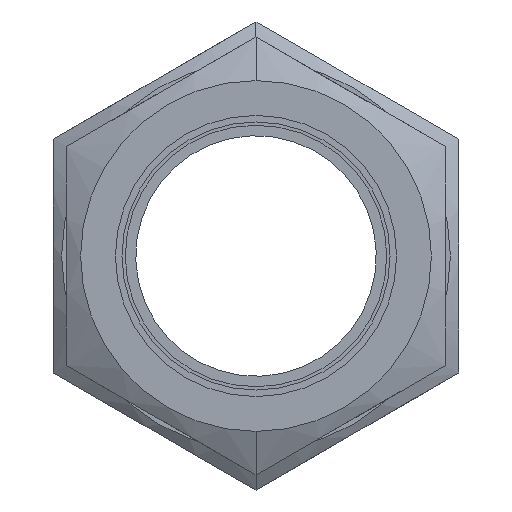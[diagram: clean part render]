
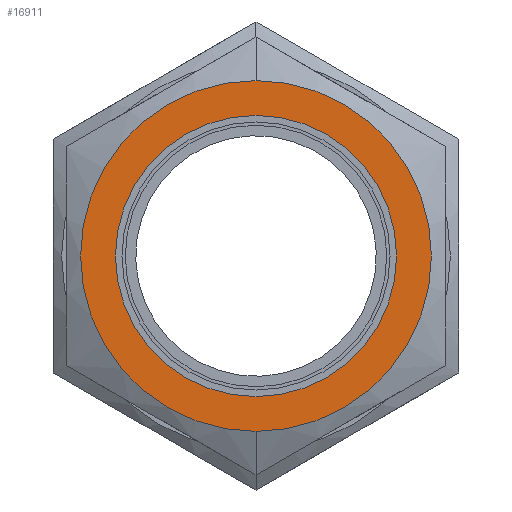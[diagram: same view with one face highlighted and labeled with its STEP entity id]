
A CAD part, left-side view. The second image highlights one B-rep face of the part: STEP entity #16911.
In plain terms, the highlighted planar face has unit normal (-1, 0, 0).
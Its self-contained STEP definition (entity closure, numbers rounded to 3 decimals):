
#165 = EDGE_CURVE ( 'NONE', #17799, #17804, #17316, .T. ) ;
#166 = EDGE_CURVE ( 'NONE', #17796, #17790, #17314, .T. ) ;
#276 = EDGE_CURVE ( 'NONE', #17790, #17796, #17478, .T. ) ;
#288 = EDGE_CURVE ( 'NONE', #17804, #17799, #17467, .T. ) ;
#1536 = CARTESIAN_POINT ( 'NONE',  ( -815.341, 0., 58.515 ) ) ;
#1542 = CARTESIAN_POINT ( 'NONE',  ( -815.341, 0., 85.39 ) ) ;
#1545 = CARTESIAN_POINT ( 'NONE',  ( -815.341, 0., 55.182 ) ) ;
#1550 = CARTESIAN_POINT ( 'NONE',  ( -815.341, 0., 88.724 ) ) ;
#4456 = FACE_OUTER_BOUND ( 'NONE', #10263, .T. ) ;
#4460 = CARTESIAN_POINT ( 'NONE',  ( -815.341, -13.438, 71.953 ) ) ;
#4464 = FACE_BOUND ( 'NONE', #10282, .T. ) ;
#4465 = PLANE ( 'NONE',  #10314 ) ;
#4467 = DIRECTION ( 'NONE',  ( 1., 0., 0. ) ) ;
#4468 = DIRECTION ( 'NONE',  ( 0., 0., 1. ) ) ;
#8068 = CARTESIAN_POINT ( 'NONE',  ( -815.341, 0., 71.953 ) ) ;
#8070 = DIRECTION ( 'NONE',  ( 1., 0., 0. ) ) ;
#8072 = DIRECTION ( 'NONE',  ( 0., 0., 1. ) ) ;
#8077 = CARTESIAN_POINT ( 'NONE',  ( -815.341, 0., 71.953 ) ) ;
#8079 = DIRECTION ( 'NONE',  ( 1., 0., 0. ) ) ;
#8081 = DIRECTION ( 'NONE',  ( 0., 0., 1. ) ) ;
#10263 = EDGE_LOOP ( 'NONE', ( #18216, #18217 ) ) ;
#10282 = EDGE_LOOP ( 'NONE', ( #18214, #18215 ) ) ;
#10314 = AXIS2_PLACEMENT_3D ( 'NONE', #4460, #4467, #4468 ) ;
#13106 = CARTESIAN_POINT ( 'NONE',  ( -815.341, 0., 71.953 ) ) ;
#13107 = DIRECTION ( 'NONE',  ( 1., 0., 0. ) ) ;
#13108 = DIRECTION ( 'NONE',  ( 0., 0., 1. ) ) ;
#13174 = CARTESIAN_POINT ( 'NONE',  ( -815.341, 0., 71.953 ) ) ;
#13175 = DIRECTION ( 'NONE',  ( 1., 0., 0. ) ) ;
#13176 = DIRECTION ( 'NONE',  ( 0., 0., 1. ) ) ;
#16911 = ADVANCED_FACE ( 'NONE', ( #4464, #4456 ), #4465, .F. ) ;
#17309 = AXIS2_PLACEMENT_3D ( 'NONE', #8077, #8079, #8081 ) ;
#17311 = AXIS2_PLACEMENT_3D ( 'NONE', #8068, #8070, #8072 ) ;
#17314 = CIRCLE ( 'NONE', #17309, 13.438 ) ;
#17316 = CIRCLE ( 'NONE', #17311, 16.771 ) ;
#17460 = AXIS2_PLACEMENT_3D ( 'NONE', #13174, #13175, #13176 ) ;
#17467 = CIRCLE ( 'NONE', #17460, 16.771 ) ;
#17475 = AXIS2_PLACEMENT_3D ( 'NONE', #13106, #13107, #13108 ) ;
#17478 = CIRCLE ( 'NONE', #17475, 13.438 ) ;
#17790 = VERTEX_POINT ( 'NONE', #1536 ) ;
#17796 = VERTEX_POINT ( 'NONE', #1542 ) ;
#17799 = VERTEX_POINT ( 'NONE', #1545 ) ;
#17804 = VERTEX_POINT ( 'NONE', #1550 ) ;
#18214 = ORIENTED_EDGE ( 'NONE', *, *, #166, .T. ) ;
#18215 = ORIENTED_EDGE ( 'NONE', *, *, #276, .T. ) ;
#18216 = ORIENTED_EDGE ( 'NONE', *, *, #288, .F. ) ;
#18217 = ORIENTED_EDGE ( 'NONE', *, *, #165, .F. ) ;
